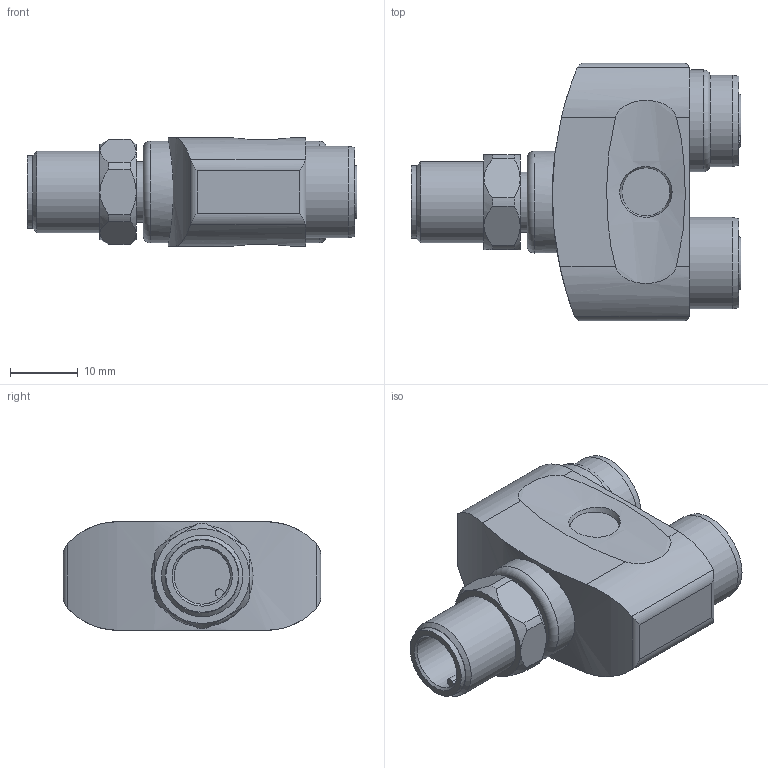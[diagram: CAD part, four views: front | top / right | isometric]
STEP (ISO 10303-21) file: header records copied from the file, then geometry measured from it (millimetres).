
FILE_DESCRIPTION( ( 'STEP AP203' ), ' ' );
FILE_NAME( 'p:/temp/worker_333/3464_2980/app_57_02015121814443710804512192d056f_000000_00_00_000000/format_2/EBT006.stp', '2015-12-18T13:44:38', ( '' ), ( '' ), ' ', 'PARTsolutions', ' ' );
FILE_SCHEMA( ( 'CONFIG_CONTROL_DESIGN' ) );
Length unit declared in the file: millimetre
Products named in the file (1): _EBT006
Bounding box: 48.67 x 38 x 16 mm (x, y, z)
Volume: 14362 mm3; surface area: 5789.5 mm2
Topology: 1 solids, 1 shells, 100 faces, 236 edges, 151 vertices
Faces by surface type: cylinder 38, plane 36, cone 20, torus 4, bspline 2
Full cylindrical faces by diameter (mm): 8.3 x1, 8.9 x1, 10.7 x1, 10.917 x2, 12 x1, 12.1 x2, 13.5 x2, 15 x2
Entity records: 3380 total; most frequent: CARTESIAN_POINT 1222, DIRECTION 423, ORIENTED_EDGE 414, EDGE_CURVE 207, AXIS2_PLACEMENT_3D 176, VERTEX_POINT 144, EDGE_LOOP 135, FACE_OUTER_BOUND 114
